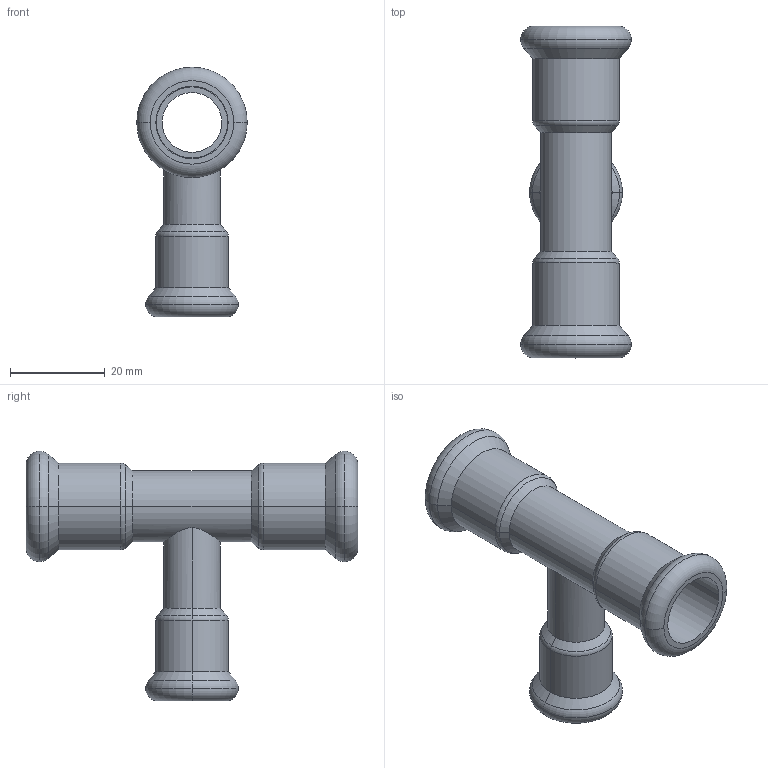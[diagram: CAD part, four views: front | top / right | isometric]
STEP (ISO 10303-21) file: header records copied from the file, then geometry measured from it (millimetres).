
FILE_DESCRIPTION(('CoCreate Modeling STEP Export'),'2;1');
FILE_NAME('C1415 15x12x15.stp','2014-11-11T17:01:31',(''),(''),'CoCreate Modeling STEP processor for AP214 (Solid Model)','CoCreate Modeling 17.00A 17-Jun-2010 (C) Parametric Technology GmbH','');
FILE_SCHEMA(('AUTOMOTIVE_DESIGN { 1 0 10303 214 1 1 1 1 }'));
Length unit declared in the file: millimetre
Products named in the file (2): C1415_15x12x15
Assembly tree (1 placements, depth 2):
  C1415_15x12x15
    C1415_15x12x15
Bounding box: 23.3 x 70 x 52.65 mm (x, y, z)
Volume: 8859.9 mm3; surface area: 10644.5 mm2
Topology: 1 solids, 1 shells, 66 faces, 135 edges, 79 vertices
Faces by surface type: cylinder 27, torus 18, cone 12, plane 9
Entity records: 2421 total; most frequent: CARTESIAN_POINT 1190, ORIENTED_EDGE 270, DIRECTION 220, EDGE_CURVE 135, AXIS2_PLACEMENT_3D 91, VERTEX_POINT 79, EDGE_LOOP 76, FACE_OUTER_BOUND 66
